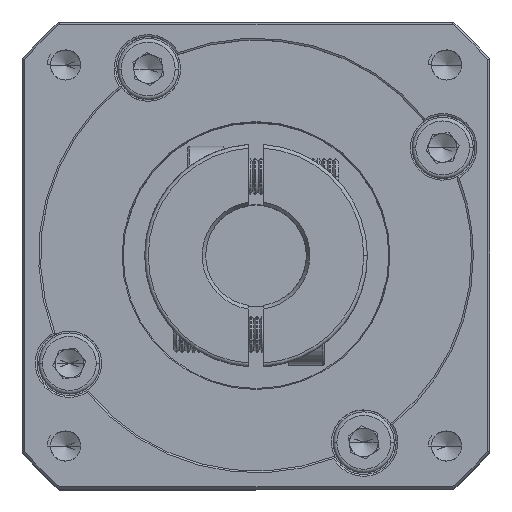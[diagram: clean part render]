
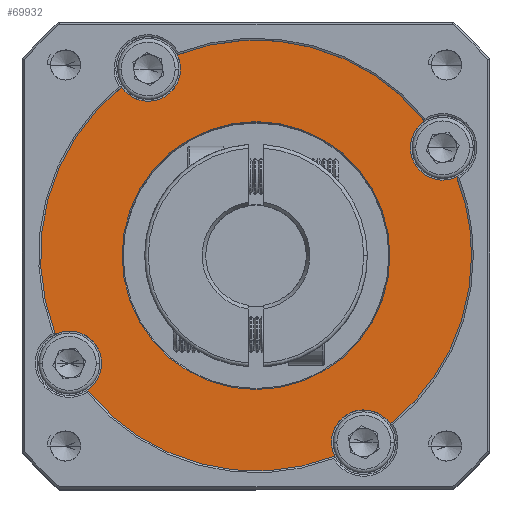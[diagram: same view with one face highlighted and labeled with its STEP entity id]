
A CAD part, top view. The second image highlights one B-rep face of the part: STEP entity #69932.
In plain terms, the highlighted planar face has unit normal (0, 0, 1).
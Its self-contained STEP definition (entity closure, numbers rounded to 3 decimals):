
#116 = EDGE_CURVE ( 'NONE', #58112, #34179, #29430, .T. ) ;
#846 = ORIENTED_EDGE ( 'NONE', *, *, #23001, .F. ) ;
#1351 = VERTEX_POINT ( 'NONE', #13468 ) ;
#1770 = DIRECTION ( 'NONE',  ( 1., 0., 0. ) ) ;
#2077 = CARTESIAN_POINT ( 'NONE',  ( -17.855, 17.821, -2.424 ) ) ;
#2298 = VERTEX_POINT ( 'NONE', #85950 ) ;
#2964 = CARTESIAN_POINT ( 'NONE',  ( -10.518, 32.821, -2.424 ) ) ;
#3235 = CIRCLE ( 'NONE', #32231, 4.5 ) ;
#3640 = AXIS2_PLACEMENT_3D ( 'NONE', #55437, #66350, #10927 ) ;
#4647 = AXIS2_PLACEMENT_3D ( 'NONE', #94576, #113370, #49505 ) ;
#4686 = DIRECTION ( 'NONE',  ( 1., 0., 0. ) ) ;
#4914 = DIRECTION ( 'NONE',  ( 1., 0., 0. ) ) ;
#6956 = EDGE_CURVE ( 'NONE', #94578, #34179, #39864, .T. ) ;
#10663 = EDGE_CURVE ( 'NONE', #37353, #93045, #89158, .T. ) ;
#10684 = VERTEX_POINT ( 'NONE', #98848 ) ;
#10725 = AXIS2_PLACEMENT_3D ( 'NONE', #15053, #51402, #42427 ) ;
#10918 = AXIS2_PLACEMENT_3D ( 'NONE', #14205, #117181, #98793 ) ;
#10927 = DIRECTION ( 'NONE',  ( 1., 0., 0. ) ) ;
#11399 = CIRCLE ( 'NONE', #56664, 18.644 ) ;
#11889 = CARTESIAN_POINT ( 'NONE',  ( -64.431, 6.876, -2.424 ) ) ;
#12498 = ORIENTED_EDGE ( 'NONE', *, *, #73195, .T. ) ;
#13468 = CARTESIAN_POINT ( 'NONE',  ( -47.444, 45.753, -2.424 ) ) ;
#14205 = CARTESIAN_POINT ( 'NONE',  ( -36.499, 17.821, -2.424 ) ) ;
#14839 = AXIS2_PLACEMENT_3D ( 'NONE', #16835, #81641, #45024 ) ;
#15053 = CARTESIAN_POINT ( 'NONE',  ( -62.48, 2.821, -2.424 ) ) ;
#15216 = CARTESIAN_POINT ( 'NONE',  ( -36.499, 17.821, -2.424 ) ) ;
#15800 = CIRCLE ( 'NONE', #10918, 30. ) ;
#16835 = CARTESIAN_POINT ( 'NONE',  ( -36.499, 17.821, -2.424 ) ) ;
#17080 = DIRECTION ( 'NONE',  ( 0., 0., 1. ) ) ;
#17354 = DIRECTION ( 'NONE',  ( 1., 0., 0. ) ) ;
#17915 = DIRECTION ( 'NONE',  ( 1., 0., 0. ) ) ;
#18093 = CARTESIAN_POINT ( 'NONE',  ( -59.944, -0.896, -2.424 ) ) ;
#19120 = EDGE_CURVE ( 'NONE', #30242, #58112, #3235, .T. ) ;
#19896 = DIRECTION ( 'NONE',  ( 1., 0., 0. ) ) ;
#21220 = CARTESIAN_POINT ( 'NONE',  ( -55.216, 41.266, -2.424 ) ) ;
#21751 = EDGE_CURVE ( 'NONE', #117502, #10684, #118698, .T. ) ;
#23001 = EDGE_CURVE ( 'NONE', #106015, #37353, #59025, .T. ) ;
#24093 = AXIS2_PLACEMENT_3D ( 'NONE', #49825, #41611, #106674 ) ;
#25111 = CARTESIAN_POINT ( 'NONE',  ( -25.554, -10.111, -2.424 ) ) ;
#26788 = CARTESIAN_POINT ( 'NONE',  ( -17.782, -5.624, -2.424 ) ) ;
#29430 = CIRCLE ( 'NONE', #119996, 4.5 ) ;
#29874 = CARTESIAN_POINT ( 'NONE',  ( -25.999, -8.16, -2.424 ) ) ;
#30242 = VERTEX_POINT ( 'NONE', #97813 ) ;
#32231 = AXIS2_PLACEMENT_3D ( 'NONE', #2964, #77919, #1770 ) ;
#33167 = DIRECTION ( 'NONE',  ( 1., 0., 0. ) ) ;
#33862 = DIRECTION ( 'NONE',  ( 0., 0., -1. ) ) ;
#34179 = VERTEX_POINT ( 'NONE', #88379 ) ;
#35190 = AXIS2_PLACEMENT_3D ( 'NONE', #47029, #102663, #65332 ) ;
#35795 = VERTEX_POINT ( 'NONE', #26788 ) ;
#37353 = VERTEX_POINT ( 'NONE', #113175 ) ;
#39003 = DIRECTION ( 'NONE',  ( 0., 0., 1. ) ) ;
#39849 = EDGE_CURVE ( 'NONE', #35795, #114878, #116237, .T. ) ;
#39864 = CIRCLE ( 'NONE', #53932, 30. ) ;
#40994 = DIRECTION ( 'NONE',  ( 0., 0., 1. ) ) ;
#41611 = DIRECTION ( 'NONE',  ( 0., 0., 1. ) ) ;
#42427 = DIRECTION ( 'NONE',  ( 1., 0., 0. ) ) ;
#44581 = DIRECTION ( 'NONE',  ( 1., 0., 0. ) ) ;
#45024 = DIRECTION ( 'NONE',  ( 1., 0., 0. ) ) ;
#45674 = ORIENTED_EDGE ( 'NONE', *, *, #111556, .T. ) ;
#47029 = CARTESIAN_POINT ( 'NONE',  ( -36.499, 17.821, -2.424 ) ) ;
#47457 = CARTESIAN_POINT ( 'NONE',  ( -15.018, 32.821, -2.424 ) ) ;
#48820 = CARTESIAN_POINT ( 'NONE',  ( -21.499, -8.16, -2.424 ) ) ;
#49505 = DIRECTION ( 'NONE',  ( 1., 0., 0. ) ) ;
#49541 = AXIS2_PLACEMENT_3D ( 'NONE', #54876, #64993, #17354 ) ;
#49825 = CARTESIAN_POINT ( 'NONE',  ( -36.499, 17.821, -2.424 ) ) ;
#51402 = DIRECTION ( 'NONE',  ( 0., 0., 1. ) ) ;
#51765 = ORIENTED_EDGE ( 'NONE', *, *, #80029, .T. ) ;
#51960 = ORIENTED_EDGE ( 'NONE', *, *, #19120, .F. ) ;
#52255 = DIRECTION ( 'NONE',  ( 1., 0., 0. ) ) ;
#52654 = CARTESIAN_POINT ( 'NONE',  ( -36.499, 17.821, -2.424 ) ) ;
#53932 = AXIS2_PLACEMENT_3D ( 'NONE', #97435, #40994, #4686 ) ;
#54514 = AXIS2_PLACEMENT_3D ( 'NONE', #83032, #17080, #17915 ) ;
#54876 = CARTESIAN_POINT ( 'NONE',  ( -21.499, -8.16, -2.424 ) ) ;
#54976 = ORIENTED_EDGE ( 'NONE', *, *, #6956, .T. ) ;
#55437 = CARTESIAN_POINT ( 'NONE',  ( -51.499, 43.802, -2.424 ) ) ;
#56664 = AXIS2_PLACEMENT_3D ( 'NONE', #52654, #33862, #52255 ) ;
#58112 = VERTEX_POINT ( 'NONE', #47457 ) ;
#58503 = CIRCLE ( 'NONE', #14839, 30. ) ;
#59025 = CIRCLE ( 'NONE', #99731, 4.5 ) ;
#59937 = FACE_OUTER_BOUND ( 'NONE', #72519, .T. ) ;
#60384 = DIRECTION ( 'NONE',  ( 0., 0., 1. ) ) ;
#60478 = ORIENTED_EDGE ( 'NONE', *, *, #10663, .F. ) ;
#64993 = DIRECTION ( 'NONE',  ( 0., 0., 1. ) ) ;
#65332 = DIRECTION ( 'NONE',  ( 1., 0., 0. ) ) ;
#66350 = DIRECTION ( 'NONE',  ( 0., 0., 1. ) ) ;
#66677 = VERTEX_POINT ( 'NONE', #2077 ) ;
#67741 = CARTESIAN_POINT ( 'NONE',  ( -6.499, 17.821, -2.424 ) ) ;
#69932 = ADVANCED_FACE ( 'NONE', ( #75912, #59937 ), #78687, .T. ) ;
#70884 = ORIENTED_EDGE ( 'NONE', *, *, #21751, .F. ) ;
#71670 = ORIENTED_EDGE ( 'NONE', *, *, #83125, .T. ) ;
#72519 = EDGE_LOOP ( 'NONE', ( #846, #51765, #77436, #74514, #116931, #54976, #100044, #51960, #81525, #82968, #70884, #12498, #60478 ) ) ;
#73195 = EDGE_CURVE ( 'NONE', #117502, #93045, #15800, .T. ) ;
#73501 = CIRCLE ( 'NONE', #54514, 4.5 ) ;
#74514 = ORIENTED_EDGE ( 'NONE', *, *, #39849, .F. ) ;
#75206 = EDGE_LOOP ( 'NONE', ( #45674, #71670 ) ) ;
#75912 = FACE_BOUND ( 'NONE', #75206, .T. ) ;
#77436 = ORIENTED_EDGE ( 'NONE', *, *, #81874, .F. ) ;
#77919 = DIRECTION ( 'NONE',  ( 0., 0., 1. ) ) ;
#78687 = PLANE ( 'NONE',  #24093 ) ;
#79248 = AXIS2_PLACEMENT_3D ( 'NONE', #48820, #39003, #19896 ) ;
#80029 = EDGE_CURVE ( 'NONE', #106015, #93872, #91823, .T. ) ;
#81525 = ORIENTED_EDGE ( 'NONE', *, *, #94393, .T. ) ;
#81641 = DIRECTION ( 'NONE',  ( 0., 0., 1. ) ) ;
#81874 = EDGE_CURVE ( 'NONE', #114878, #93872, #93936, .T. ) ;
#82370 = CARTESIAN_POINT ( 'NONE',  ( -10.518, 32.821, -2.424 ) ) ;
#82968 = ORIENTED_EDGE ( 'NONE', *, *, #91811, .F. ) ;
#83032 = CARTESIAN_POINT ( 'NONE',  ( -51.499, 43.802, -2.424 ) ) ;
#83125 = EDGE_CURVE ( 'NONE', #2298, #66677, #11399, .T. ) ;
#85950 = CARTESIAN_POINT ( 'NONE',  ( -55.143, 17.821, -2.424 ) ) ;
#88379 = CARTESIAN_POINT ( 'NONE',  ( -8.567, 28.766, -2.424 ) ) ;
#89158 = CIRCLE ( 'NONE', #10725, 4.5 ) ;
#91811 = EDGE_CURVE ( 'NONE', #10684, #1351, #73501, .T. ) ;
#91823 = CIRCLE ( 'NONE', #4647, 30. ) ;
#93045 = VERTEX_POINT ( 'NONE', #11889 ) ;
#93872 = VERTEX_POINT ( 'NONE', #25111 ) ;
#93936 = CIRCLE ( 'NONE', #49541, 4.5 ) ;
#94393 = EDGE_CURVE ( 'NONE', #30242, #1351, #103605, .T. ) ;
#94576 = CARTESIAN_POINT ( 'NONE',  ( -36.499, 17.821, -2.424 ) ) ;
#94578 = VERTEX_POINT ( 'NONE', #67741 ) ;
#97435 = CARTESIAN_POINT ( 'NONE',  ( -36.499, 17.821, -2.424 ) ) ;
#97813 = CARTESIAN_POINT ( 'NONE',  ( -13.054, 36.539, -2.424 ) ) ;
#98793 = DIRECTION ( 'NONE',  ( 1., 0., 0. ) ) ;
#98848 = CARTESIAN_POINT ( 'NONE',  ( -46.999, 43.802, -2.424 ) ) ;
#99731 = AXIS2_PLACEMENT_3D ( 'NONE', #115297, #60384, #4914 ) ;
#99814 = DIRECTION ( 'NONE',  ( 0., 0., 1. ) ) ;
#100044 = ORIENTED_EDGE ( 'NONE', *, *, #116, .F. ) ;
#102663 = DIRECTION ( 'NONE',  ( 0., 0., 1. ) ) ;
#103570 = CIRCLE ( 'NONE', #104835, 18.644 ) ;
#103605 = CIRCLE ( 'NONE', #35190, 30. ) ;
#104835 = AXIS2_PLACEMENT_3D ( 'NONE', #15216, #108846, #33167 ) ;
#106015 = VERTEX_POINT ( 'NONE', #18093 ) ;
#106674 = DIRECTION ( 'NONE',  ( 1., 0., 0. ) ) ;
#108846 = DIRECTION ( 'NONE',  ( 0., 0., -1. ) ) ;
#111556 = EDGE_CURVE ( 'NONE', #66677, #2298, #103570, .T. ) ;
#113175 = CARTESIAN_POINT ( 'NONE',  ( -57.98, 2.821, -2.424 ) ) ;
#113370 = DIRECTION ( 'NONE',  ( 0., 0., 1. ) ) ;
#114580 = EDGE_CURVE ( 'NONE', #35795, #94578, #58503, .T. ) ;
#114878 = VERTEX_POINT ( 'NONE', #29874 ) ;
#115297 = CARTESIAN_POINT ( 'NONE',  ( -62.48, 2.821, -2.424 ) ) ;
#116237 = CIRCLE ( 'NONE', #79248, 4.5 ) ;
#116931 = ORIENTED_EDGE ( 'NONE', *, *, #114580, .T. ) ;
#117181 = DIRECTION ( 'NONE',  ( 0., 0., 1. ) ) ;
#117502 = VERTEX_POINT ( 'NONE', #21220 ) ;
#118698 = CIRCLE ( 'NONE', #3640, 4.5 ) ;
#119996 = AXIS2_PLACEMENT_3D ( 'NONE', #82370, #99814, #44581 ) ;
